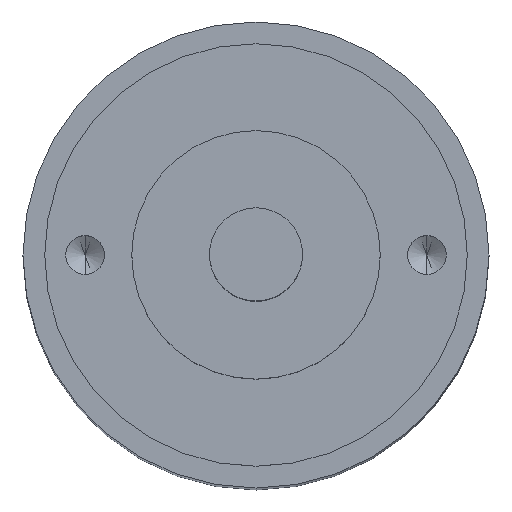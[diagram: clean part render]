
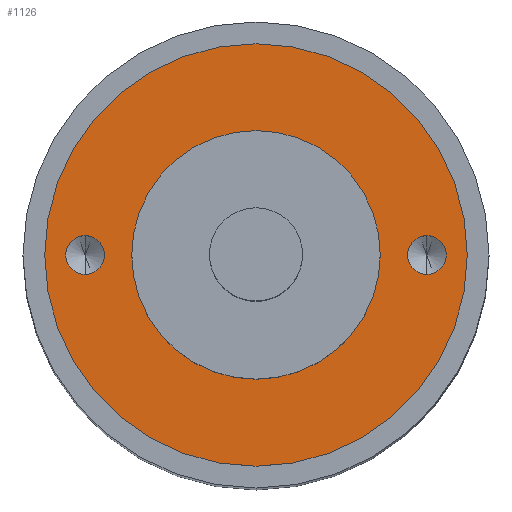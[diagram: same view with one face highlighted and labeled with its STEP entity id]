
A CAD part, top view. The second image highlights one B-rep face of the part: STEP entity #1126.
In plain terms, the highlighted planar face has unit normal (0, 0, 1).
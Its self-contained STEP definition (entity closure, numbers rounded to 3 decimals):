
#5 = DIRECTION ( 'NONE',  ( 0., 0., 1. ) ) ;
#10 = CARTESIAN_POINT ( 'NONE',  ( -5.5, 0., 0. ) ) ;
#14 = AXIS2_PLACEMENT_3D ( 'NONE', #626, #904, #65 ) ;
#31 = EDGE_CURVE ( 'NONE', #624, #628, #324, .T. ) ;
#65 = DIRECTION ( 'NONE',  ( 0., -1., 0. ) ) ;
#68 = CARTESIAN_POINT ( 'NONE',  ( 5.5, 0., 0. ) ) ;
#93 = CARTESIAN_POINT ( 'NONE',  ( 5.5, 0.625, 0. ) ) ;
#102 = EDGE_CURVE ( 'NONE', #523, #148, #308, .T. ) ;
#120 = DIRECTION ( 'NONE',  ( 0., 0., 1. ) ) ;
#129 = ORIENTED_EDGE ( 'NONE', *, *, #283, .T. ) ;
#135 = EDGE_LOOP ( 'NONE', ( #414, #313 ) ) ;
#148 = VERTEX_POINT ( 'NONE', #526 ) ;
#159 = FACE_BOUND ( 'NONE', #135, .T. ) ;
#191 = ORIENTED_EDGE ( 'NONE', *, *, #1161, .F. ) ;
#202 = CIRCLE ( 'NONE', #945, 4. ) ;
#206 = DIRECTION ( 'NONE',  ( 0., 0., -1. ) ) ;
#213 = DIRECTION ( 'NONE',  ( 0., 0., -1. ) ) ;
#246 = VERTEX_POINT ( 'NONE', #93 ) ;
#263 = CARTESIAN_POINT ( 'NONE',  ( 5.5, -0.625, 0. ) ) ;
#281 = AXIS2_PLACEMENT_3D ( 'NONE', #1056, #206, #579 ) ;
#283 = EDGE_CURVE ( 'NONE', #934, #321, #202, .T. ) ;
#308 = CIRCLE ( 'NONE', #1140, 0.625 ) ;
#310 = DIRECTION ( 'NONE',  ( 0., 0., -1. ) ) ;
#313 = ORIENTED_EDGE ( 'NONE', *, *, #636, .F. ) ;
#321 = VERTEX_POINT ( 'NONE', #395 ) ;
#324 = CIRCLE ( 'NONE', #281, 6.8 ) ;
#348 = CARTESIAN_POINT ( 'NONE',  ( 0., 4., 0. ) ) ;
#350 = ORIENTED_EDGE ( 'NONE', *, *, #102, .F. ) ;
#368 = DIRECTION ( 'NONE',  ( 0., 0., -1. ) ) ;
#395 = CARTESIAN_POINT ( 'NONE',  ( 0., -4., 0. ) ) ;
#405 = EDGE_LOOP ( 'NONE', ( #350, #191 ) ) ;
#414 = ORIENTED_EDGE ( 'NONE', *, *, #1145, .F. ) ;
#460 = EDGE_CURVE ( 'NONE', #628, #624, #762, .T. ) ;
#523 = VERTEX_POINT ( 'NONE', #893 ) ;
#526 = CARTESIAN_POINT ( 'NONE',  ( -5.5, 0.625, 0. ) ) ;
#549 = CIRCLE ( 'NONE', #14, 0.625 ) ;
#555 = DIRECTION ( 'NONE',  ( 0., 0., 1. ) ) ;
#577 = DIRECTION ( 'NONE',  ( 0., -1., 0. ) ) ;
#579 = DIRECTION ( 'NONE',  ( 0., 1., 0. ) ) ;
#588 = CARTESIAN_POINT ( 'NONE',  ( 0., 0., 0. ) ) ;
#624 = VERTEX_POINT ( 'NONE', #1110 ) ;
#626 = CARTESIAN_POINT ( 'NONE',  ( 5.5, 0., 0. ) ) ;
#628 = VERTEX_POINT ( 'NONE', #640 ) ;
#636 = EDGE_CURVE ( 'NONE', #246, #1023, #965, .T. ) ;
#640 = CARTESIAN_POINT ( 'NONE',  ( 0., 6.8, 0. ) ) ;
#645 = AXIS2_PLACEMENT_3D ( 'NONE', #10, #120, #682 ) ;
#675 = EDGE_CURVE ( 'NONE', #321, #934, #864, .T. ) ;
#682 = DIRECTION ( 'NONE',  ( 0., -1., 0. ) ) ;
#735 = DIRECTION ( 'NONE',  ( 0., 1., 0. ) ) ;
#746 = FACE_BOUND ( 'NONE', #926, .T. ) ;
#761 = DIRECTION ( 'NONE',  ( 0., 1., 0. ) ) ;
#762 = CIRCLE ( 'NONE', #1082, 6.8 ) ;
#798 = CARTESIAN_POINT ( 'NONE',  ( 0., 4., 0. ) ) ;
#808 = EDGE_LOOP ( 'NONE', ( #1213, #1144 ) ) ;
#828 = DIRECTION ( 'NONE',  ( 0., -1., 0. ) ) ;
#840 = FACE_BOUND ( 'NONE', #405, .T. ) ;
#848 = PLANE ( 'NONE',  #1179 ) ;
#864 = CIRCLE ( 'NONE', #901, 4. ) ;
#880 = CIRCLE ( 'NONE', #645, 0.625 ) ;
#893 = CARTESIAN_POINT ( 'NONE',  ( -5.5, -0.625, 0. ) ) ;
#901 = AXIS2_PLACEMENT_3D ( 'NONE', #1095, #368, #735 ) ;
#904 = DIRECTION ( 'NONE',  ( 0., 0., 1. ) ) ;
#921 = AXIS2_PLACEMENT_3D ( 'NONE', #68, #555, #828 ) ;
#926 = EDGE_LOOP ( 'NONE', ( #129, #955 ) ) ;
#934 = VERTEX_POINT ( 'NONE', #798 ) ;
#945 = AXIS2_PLACEMENT_3D ( 'NONE', #1141, #213, #761 ) ;
#955 = ORIENTED_EDGE ( 'NONE', *, *, #675, .T. ) ;
#965 = CIRCLE ( 'NONE', #921, 0.625 ) ;
#1023 = VERTEX_POINT ( 'NONE', #263 ) ;
#1053 = DIRECTION ( 'NONE',  ( 0., 1., 0. ) ) ;
#1056 = CARTESIAN_POINT ( 'NONE',  ( 0., 0., 0. ) ) ;
#1082 = AXIS2_PLACEMENT_3D ( 'NONE', #588, #310, #1053 ) ;
#1092 = DIRECTION ( 'NONE',  ( 0., -1., 0. ) ) ;
#1095 = CARTESIAN_POINT ( 'NONE',  ( 0., 0., 0. ) ) ;
#1099 = CARTESIAN_POINT ( 'NONE',  ( -5.5, 0., 0. ) ) ;
#1110 = CARTESIAN_POINT ( 'NONE',  ( 0., -6.8, 0. ) ) ;
#1124 = FACE_OUTER_BOUND ( 'NONE', #808, .T. ) ;
#1126 = ADVANCED_FACE ( 'NONE', ( #159, #840, #746, #1124 ), #848, .T. ) ;
#1140 = AXIS2_PLACEMENT_3D ( 'NONE', #1099, #1191, #1092 ) ;
#1141 = CARTESIAN_POINT ( 'NONE',  ( 0., 0., 0. ) ) ;
#1144 = ORIENTED_EDGE ( 'NONE', *, *, #31, .F. ) ;
#1145 = EDGE_CURVE ( 'NONE', #1023, #246, #549, .T. ) ;
#1161 = EDGE_CURVE ( 'NONE', #148, #523, #880, .T. ) ;
#1179 = AXIS2_PLACEMENT_3D ( 'NONE', #348, #5, #577 ) ;
#1191 = DIRECTION ( 'NONE',  ( 0., 0., 1. ) ) ;
#1213 = ORIENTED_EDGE ( 'NONE', *, *, #460, .F. ) ;
